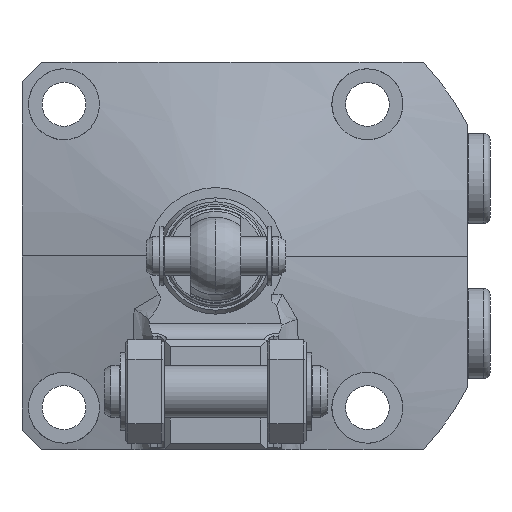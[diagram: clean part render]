
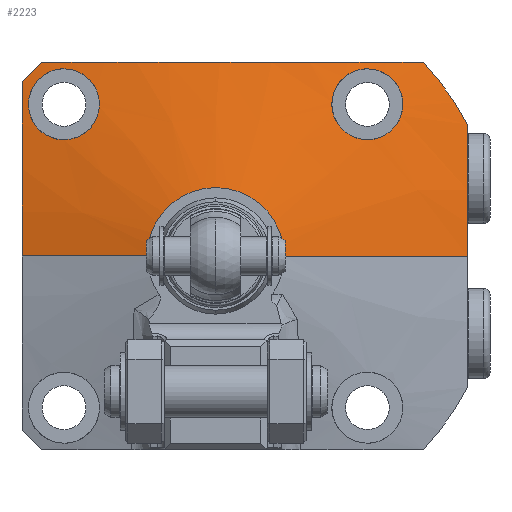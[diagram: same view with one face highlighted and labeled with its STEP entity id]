
A CAD part, left-side view. The second image highlights one B-rep face of the part: STEP entity #2223.
In plain terms, the highlighted conical face has half-angle 75 degrees and reference radius 44 mm.
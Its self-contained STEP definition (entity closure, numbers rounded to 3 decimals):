
#1468=B_SPLINE_CURVE_WITH_KNOTS('',3,(#12051,#12052,#12053,#12054,#12055,
#12056,#12057,#12058,#12059,#12060),.UNSPECIFIED.,.F.,.F.,(4,2,2,2,4),(0.,
0.25,0.5,0.75,1.),.UNSPECIFIED.);
#1469=B_SPLINE_CURVE_WITH_KNOTS('',3,(#12069,#12070,#12071,#12072,#12073,
#12074,#12075,#12076,#12077,#12078),.UNSPECIFIED.,.F.,.F.,(4,2,2,2,4),(0.,
0.25,0.5,0.75,1.),.UNSPECIFIED.);
#1477=B_SPLINE_CURVE_WITH_KNOTS('',3,(#12360,#12361,#12362,#12363),
 .UNSPECIFIED.,.F.,.F.,(4,4),(0.,1.),.UNSPECIFIED.);
#1478=B_SPLINE_CURVE_WITH_KNOTS('',3,(#12367,#12368,#12369,#12370,#12371,
#12372),.UNSPECIFIED.,.F.,.F.,(4,2,4),(0.,0.5,1.),.UNSPECIFIED.);
#1479=B_SPLINE_CURVE_WITH_KNOTS('',3,(#12374,#12375,#12376,#12377),
 .UNSPECIFIED.,.F.,.F.,(4,4),(0.,1.),.UNSPECIFIED.);
#1480=B_SPLINE_CURVE_WITH_KNOTS('',3,(#12379,#12380,#12381,#12382),
 .UNSPECIFIED.,.F.,.F.,(4,4),(0.,1.),.UNSPECIFIED.);
#1481=B_SPLINE_CURVE_WITH_KNOTS('',3,(#12383,#12384,#12385,#12386,#12387,
#12388,#12389,#12390,#12391,#12392),.UNSPECIFIED.,.F.,.F.,(4,2,2,2,4),(0.,
0.25,0.5,0.75,1.),.UNSPECIFIED.);
#1482=B_SPLINE_CURVE_WITH_KNOTS('',3,(#12393,#12394,#12395,#12396,#12397,
#12398,#12399,#12400,#12401,#12402),.UNSPECIFIED.,.F.,.F.,(4,2,2,2,4),(0.,
0.25,0.5,0.75,1.),.UNSPECIFIED.);
#1643=FACE_BOUND('',#3162,.T.);
#1644=FACE_BOUND('',#3163,.T.);
#1645=FACE_BOUND('',#3164,.T.);
#1736=CONICAL_SURFACE('',#8468,44.,75.);
#2223=ADVANCED_FACE('',(#1643,#1644,#1645),#1736,.T.);
#3162=EDGE_LOOP('',(#5152,#5153,#5154,#5155,#5156,#5157,#5158,#5159));
#3163=EDGE_LOOP('',(#5160,#5161));
#3164=EDGE_LOOP('',(#5162,#5163));
#3632=LINE('',#12303,#3997);
#3633=LINE('',#12358,#3998);
#3997=VECTOR('',#10173,1.);
#3998=VECTOR('',#10178,1.);
#5152=ORIENTED_EDGE('',*,*,#7098,.F.);
#5153=ORIENTED_EDGE('',*,*,#7104,.T.);
#5154=ORIENTED_EDGE('',*,*,#7105,.T.);
#5155=ORIENTED_EDGE('',*,*,#7106,.F.);
#5156=ORIENTED_EDGE('',*,*,#7107,.T.);
#5157=ORIENTED_EDGE('',*,*,#7108,.F.);
#5158=ORIENTED_EDGE('',*,*,#7109,.F.);
#5159=ORIENTED_EDGE('',*,*,#7110,.F.);
#5160=ORIENTED_EDGE('',*,*,#6998,.T.);
#5161=ORIENTED_EDGE('',*,*,#7111,.T.);
#5162=ORIENTED_EDGE('',*,*,#6994,.T.);
#5163=ORIENTED_EDGE('',*,*,#7112,.T.);
#6250=VERTEX_POINT('',#12050);
#6251=VERTEX_POINT('',#12061);
#6254=VERTEX_POINT('',#12068);
#6255=VERTEX_POINT('',#12079);
#6335=VERTEX_POINT('',#12302);
#6336=VERTEX_POINT('',#12304);
#6341=VERTEX_POINT('',#12357);
#6342=VERTEX_POINT('',#12359);
#6343=VERTEX_POINT('',#12364);
#6344=VERTEX_POINT('',#12366);
#6345=VERTEX_POINT('',#12373);
#6346=VERTEX_POINT('',#12378);
#6994=EDGE_CURVE('',#6251,#6250,#1468,.T.);
#6998=EDGE_CURVE('',#6255,#6254,#1469,.T.);
#7098=EDGE_CURVE('',#6335,#6336,#3632,.T.);
#7104=EDGE_CURVE('',#6335,#6341,#7750,.T.);
#7105=EDGE_CURVE('',#6341,#6342,#3633,.T.);
#7106=EDGE_CURVE('',#6343,#6342,#1477,.T.);
#7107=EDGE_CURVE('',#6343,#6344,#7751,.T.);
#7108=EDGE_CURVE('',#6345,#6344,#1478,.T.);
#7109=EDGE_CURVE('',#6346,#6345,#1479,.T.);
#7110=EDGE_CURVE('',#6336,#6346,#1480,.T.);
#7111=EDGE_CURVE('',#6254,#6255,#1481,.T.);
#7112=EDGE_CURVE('',#6250,#6251,#1482,.T.);
#7750=CIRCLE('',#8466,10.598);
#7751=CIRCLE('',#8467,44.);
#8466=AXIS2_PLACEMENT_3D('',#12356,#10176,#10177);
#8467=AXIS2_PLACEMENT_3D('',#12365,#10179,#10180);
#8468=AXIS2_PLACEMENT_3D('',#12403,#10181,#10182);
#10173=DIRECTION('',(0.259,0.966,0.));
#10176=DIRECTION('',(1.,0.,0.));
#10177=DIRECTION('',(0.,0.,1.));
#10178=DIRECTION('',(0.259,-0.966,0.));
#10179=DIRECTION('',(-1.,0.,0.));
#10180=DIRECTION('',(0.,1.,0.));
#10181=DIRECTION('',(1.,0.,0.));
#10182=DIRECTION('',(0.,-1.,0.));
#12050=CARTESIAN_POINT('',(-22.908,-23.5,18.));
#12051=CARTESIAN_POINT('',(-20.838,-23.5,29.));
#12052=CARTESIAN_POINT('',(-20.592,-24.957,29.));
#12053=CARTESIAN_POINT('',(-20.458,-26.404,28.393));
#12054=CARTESIAN_POINT('',(-20.464,-28.446,26.313));
#12055=CARTESIAN_POINT('',(-20.607,-29.025,24.846));
#12056=CARTESIAN_POINT('',(-21.103,-28.973,21.959));
#12057=CARTESIAN_POINT('',(-21.454,-28.36,20.559));
#12058=CARTESIAN_POINT('',(-22.206,-26.331,18.576));
#12059=CARTESIAN_POINT('',(-22.601,-24.945,18.));
#12060=CARTESIAN_POINT('',(-22.908,-23.5,18.));
#12061=CARTESIAN_POINT('',(-20.838,-23.5,29.));
#12068=CARTESIAN_POINT('',(-22.908,23.5,18.));
#12069=CARTESIAN_POINT('',(-20.838,23.5,29.));
#12070=CARTESIAN_POINT('',(-21.084,22.04,29.));
#12071=CARTESIAN_POINT('',(-21.432,20.637,28.404));
#12072=CARTESIAN_POINT('',(-22.18,18.626,26.414));
#12073=CARTESIAN_POINT('',(-22.582,18.024,25.014));
#12074=CARTESIAN_POINT('',(-23.196,17.978,22.164));
#12075=CARTESIAN_POINT('',(-23.404,18.546,20.696));
#12076=CARTESIAN_POINT('',(-23.413,20.603,18.599));
#12077=CARTESIAN_POINT('',(-23.216,22.052,18.));
#12078=CARTESIAN_POINT('',(-22.908,23.5,18.));
#12079=CARTESIAN_POINT('',(-20.838,23.5,29.));
#12302=CARTESIAN_POINT('',(-28.,10.598,0.));
#12303=CARTESIAN_POINT('',(-19.05,44.,0.));
#12304=CARTESIAN_POINT('',(-22.801,30.,0.));
#12356=CARTESIAN_POINT('',(-28.,0.,0.));
#12357=CARTESIAN_POINT('',(-28.,-10.598,0.));
#12358=CARTESIAN_POINT('',(-19.05,-44.,0.));
#12359=CARTESIAN_POINT('',(-20.39,-39.,0.));
#12360=CARTESIAN_POINT('',(-19.05,-39.,20.372));
#12361=CARTESIAN_POINT('',(-19.889,-39.,13.607));
#12362=CARTESIAN_POINT('',(-20.39,-39.,6.82));
#12363=CARTESIAN_POINT('',(-20.39,-39.,0.));
#12364=CARTESIAN_POINT('',(-19.05,-39.,20.372));
#12365=CARTESIAN_POINT('',(-19.05,0.,0.));
#12366=CARTESIAN_POINT('',(-19.05,-32.187,30.));
#12367=CARTESIAN_POINT('',(-20.025,27.,30.));
#12368=CARTESIAN_POINT('',(-21.782,17.196,30.));
#12369=CARTESIAN_POINT('',(-22.995,7.367,30.));
#12370=CARTESIAN_POINT('',(-22.55,-12.423,30.));
#12371=CARTESIAN_POINT('',(-20.973,-22.374,30.));
#12372=CARTESIAN_POINT('',(-19.05,-32.187,30.));
#12373=CARTESIAN_POINT('',(-20.025,27.,30.));
#12374=CARTESIAN_POINT('',(-20.025,30.,27.));
#12375=CARTESIAN_POINT('',(-20.045,29.,28.));
#12376=CARTESIAN_POINT('',(-20.045,28.,29.));
#12377=CARTESIAN_POINT('',(-20.025,27.,30.));
#12378=CARTESIAN_POINT('',(-20.025,30.,27.));
#12379=CARTESIAN_POINT('',(-22.801,30.,0.));
#12380=CARTESIAN_POINT('',(-22.801,30.,9.095));
#12381=CARTESIAN_POINT('',(-21.626,30.,18.069));
#12382=CARTESIAN_POINT('',(-20.025,30.,27.));
#12383=CARTESIAN_POINT('',(-22.908,23.5,18.));
#12384=CARTESIAN_POINT('',(-22.601,24.946,18.));
#12385=CARTESIAN_POINT('',(-22.204,26.334,18.579));
#12386=CARTESIAN_POINT('',(-21.456,28.355,20.555));
#12387=CARTESIAN_POINT('',(-21.103,28.972,21.961));
#12388=CARTESIAN_POINT('',(-20.609,29.026,24.83));
#12389=CARTESIAN_POINT('',(-20.465,28.455,26.301));
#12390=CARTESIAN_POINT('',(-20.458,26.405,28.395));
#12391=CARTESIAN_POINT('',(-20.592,24.958,29.));
#12392=CARTESIAN_POINT('',(-20.838,23.5,29.));
#12393=CARTESIAN_POINT('',(-22.908,-23.5,18.));
#12394=CARTESIAN_POINT('',(-23.216,-22.052,18.));
#12395=CARTESIAN_POINT('',(-23.412,-20.605,18.601));
#12396=CARTESIAN_POINT('',(-23.405,-18.556,20.682));
#12397=CARTESIAN_POINT('',(-23.2,-17.979,22.146));
#12398=CARTESIAN_POINT('',(-22.581,-18.022,25.02));
#12399=CARTESIAN_POINT('',(-22.181,-18.622,26.411));
#12400=CARTESIAN_POINT('',(-21.431,-20.641,28.408));
#12401=CARTESIAN_POINT('',(-21.084,-22.04,29.));
#12402=CARTESIAN_POINT('',(-20.838,-23.5,29.));
#12403=CARTESIAN_POINT('',(-19.05,0.,0.));
